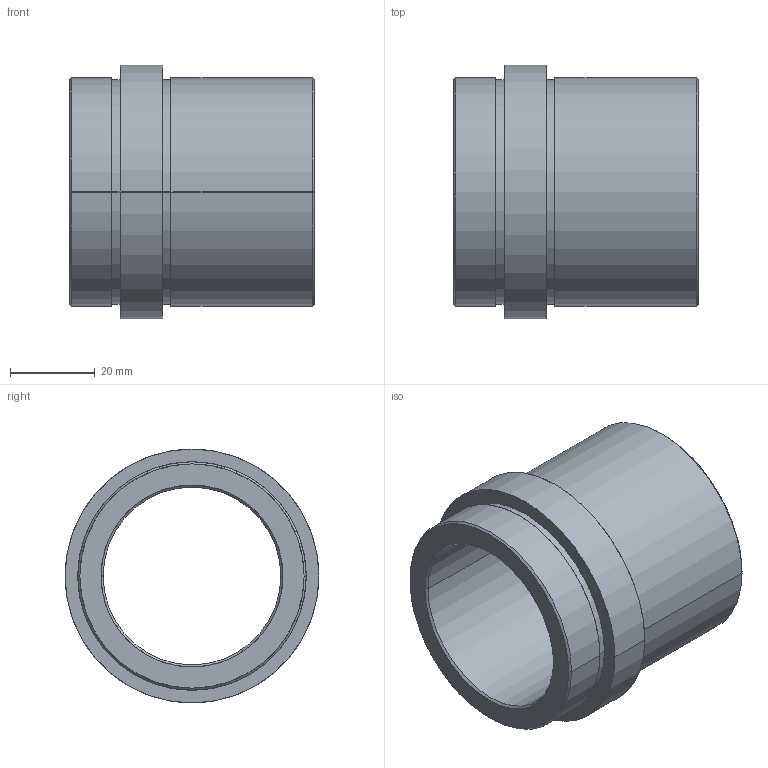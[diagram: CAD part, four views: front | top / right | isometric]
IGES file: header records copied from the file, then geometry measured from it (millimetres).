
Start section: SolidWorks IGES FILE using analytic representation for surfaces
Global section: file name: D:\zzzzz\Delta\D21\42\D21 - 42x46.IGS; native system: SolidWorks 2004 by SolidWorks Corporation; preprocessor: Version 5.3; author: Hkn; date: 080326.193522; units: millimetre
Bounding box: 58 x 60 x 60 mm (x, y, z)
Surface area: 20711.8 mm2 (no closed solid volume)
Topology: 0 solids, 0 shells, 26 faces, 848 edges, 848 vertices
Faces by surface type: revolution 20, bspline 6
